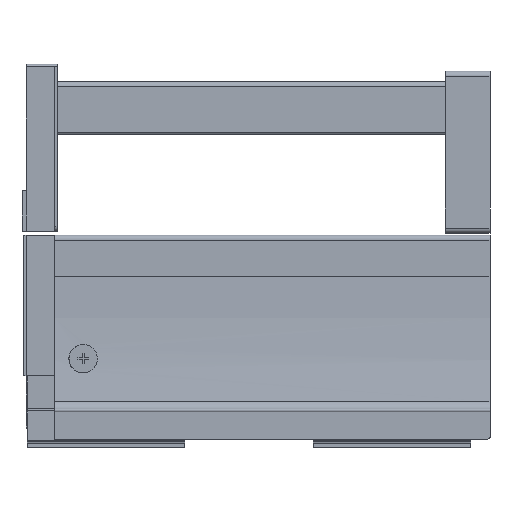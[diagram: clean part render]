
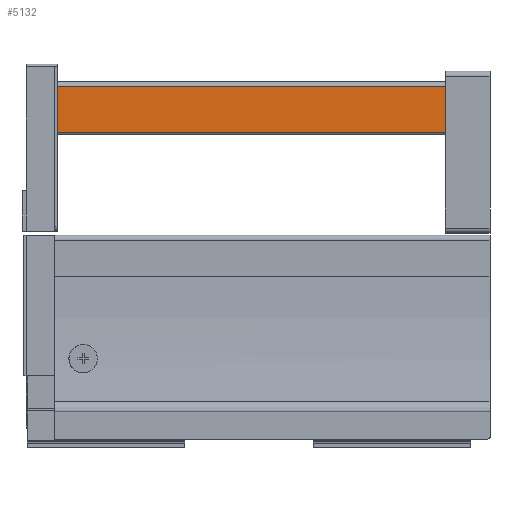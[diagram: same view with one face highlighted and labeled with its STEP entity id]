
A CAD part, left-side view. The second image highlights one B-rep face of the part: STEP entity #5132.
In plain terms, the highlighted planar face has unit normal (-1, 0, 0).
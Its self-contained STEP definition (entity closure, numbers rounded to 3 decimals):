
#375 = EDGE_CURVE ( 'NONE', #4563, #4551, #2220, .T. ) ;
#465 = EDGE_CURVE ( 'NONE', #4581, #4573, #2345, .T. ) ;
#518 = AXIS2_PLACEMENT_3D ( 'NONE', #1223, #1225, #1226 ) ;
#569 = EDGE_CURVE ( 'NONE', #4563, #4573, #2466, .T. ) ;
#747 = EDGE_CURVE ( 'NONE', #4551, #4581, #2666, .T. ) ;
#967 = FACE_OUTER_BOUND ( 'NONE', #4292, .T. ) ;
#1223 = CARTESIAN_POINT ( 'NONE',  ( -17.15, 363.5, 166.098 ) ) ;
#1224 = PLANE ( 'NONE',  #518 ) ;
#1225 = DIRECTION ( 'NONE',  ( -1., 0., 0. ) ) ;
#1226 = DIRECTION ( 'NONE',  ( 0., 0., -1. ) ) ;
#1775 = ORIENTED_EDGE ( 'NONE', *, *, #569, .T. ) ;
#1776 = ORIENTED_EDGE ( 'NONE', *, *, #465, .F. ) ;
#1777 = ORIENTED_EDGE ( 'NONE', *, *, #747, .F. ) ;
#1778 = ORIENTED_EDGE ( 'NONE', *, *, #375, .F. ) ;
#2220 = LINE ( 'NONE', #2790, #2240 ) ;
#2240 = VECTOR ( 'NONE', #2795, 1000. ) ;
#2345 = LINE ( 'NONE', #2916, #2346 ) ;
#2346 = VECTOR ( 'NONE', #2917, 1000. ) ;
#2466 = LINE ( 'NONE', #3064, #2467 ) ;
#2467 = VECTOR ( 'NONE', #3065, 1000. ) ;
#2666 = LINE ( 'NONE', #3351, #2667 ) ;
#2667 = VECTOR ( 'NONE', #3352, 1000. ) ;
#2790 = CARTESIAN_POINT ( 'NONE',  ( -17.15, 247.25, 166.098 ) ) ;
#2795 = DIRECTION ( 'NONE',  ( 0., 0., 1. ) ) ;
#2916 = CARTESIAN_POINT ( 'NONE',  ( -17.15, 25.45, 166.098 ) ) ;
#2917 = DIRECTION ( 'NONE',  ( 0., 0., -1. ) ) ;
#3064 = CARTESIAN_POINT ( 'NONE',  ( -17.15, 363.5, 140.048 ) ) ;
#3065 = DIRECTION ( 'NONE',  ( 0., -1., 0. ) ) ;
#3351 = CARTESIAN_POINT ( 'NONE',  ( -17.15, 363.5, 166.098 ) ) ;
#3352 = DIRECTION ( 'NONE',  ( 0., -1., 0. ) ) ;
#3656 = CARTESIAN_POINT ( 'NONE',  ( -17.15, 247.25, 166.098 ) ) ;
#3668 = CARTESIAN_POINT ( 'NONE',  ( -17.15, 247.25, 140.048 ) ) ;
#3678 = CARTESIAN_POINT ( 'NONE',  ( -17.15, 25.45, 140.048 ) ) ;
#3686 = CARTESIAN_POINT ( 'NONE',  ( -17.15, 25.45, 166.098 ) ) ;
#4292 = EDGE_LOOP ( 'NONE', ( #1775, #1776, #1777, #1778 ) ) ;
#4551 = VERTEX_POINT ( 'NONE', #3656 ) ;
#4563 = VERTEX_POINT ( 'NONE', #3668 ) ;
#4573 = VERTEX_POINT ( 'NONE', #3678 ) ;
#4581 = VERTEX_POINT ( 'NONE', #3686 ) ;
#5132 = ADVANCED_FACE ( 'NONE', ( #967 ), #1224, .T. ) ;
